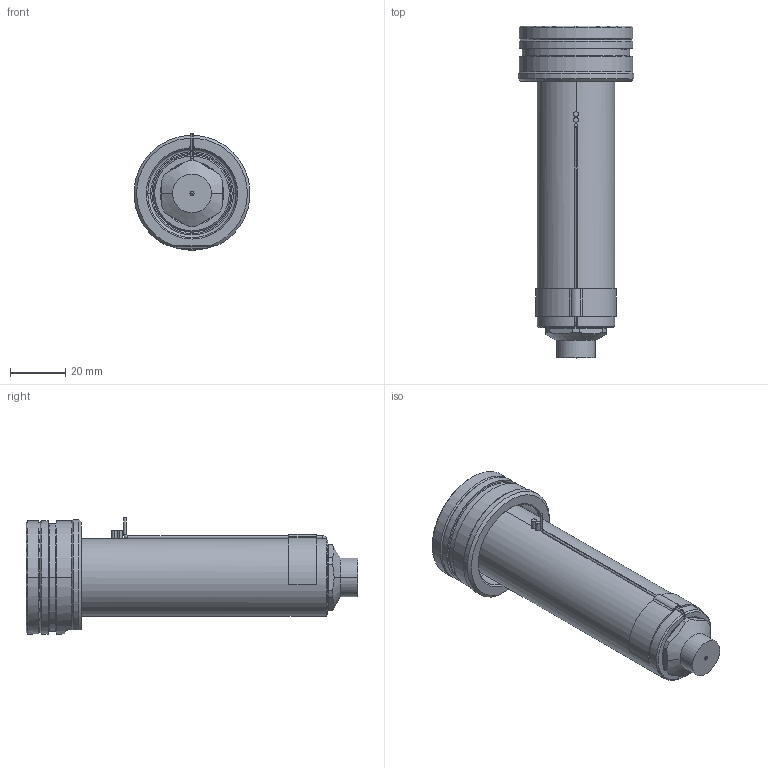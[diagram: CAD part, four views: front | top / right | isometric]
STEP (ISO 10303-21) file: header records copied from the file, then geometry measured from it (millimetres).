
FILE_DESCRIPTION((''),'2;1');
FILE_NAME('EO10_PG-FB_WR_100_SW','2024-02-19T11:35:06',('sundharh'),(''),'CREO PARAMETRIC BY PTC INC, 2023154','CREO PARAMETRIC BY PTC INC, 2023154','');
FILE_SCHEMA(('CONFIG_CONTROL_DESIGN'));
Length unit declared in the file: millimetre
Products named in the file (1): EO10_PG-FB_WR_100_SW
Bounding box: 41.85 x 120 x 42.02 mm (x, y, z)
Volume: 73068.4 mm3; surface area: 21490.6 mm2
Topology: 1 solids, 1 shells, 201 faces, 544 edges, 338 vertices
Faces by surface type: cylinder 80, plane 59, cone 39, torus 17, bspline 3, sphere 3
Entity records: 7380 total; most frequent: CARTESIAN_POINT 2212, DIRECTION 1128, ORIENTED_EDGE 1080, EDGE_CURVE 540, AXIS2_PLACEMENT_3D 470, VERTEX_POINT 338, CIRCLE 272, EDGE_LOOP 218
